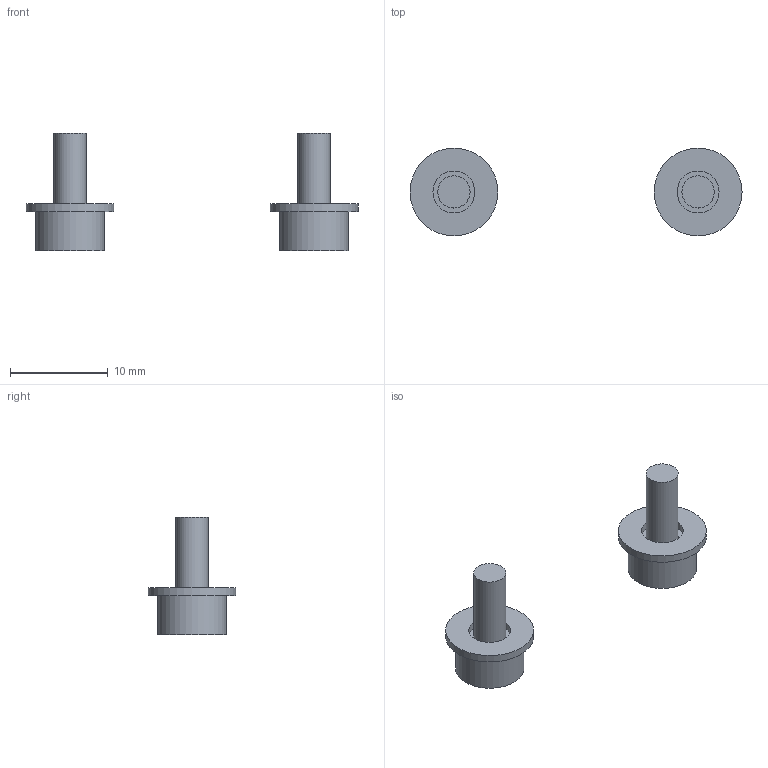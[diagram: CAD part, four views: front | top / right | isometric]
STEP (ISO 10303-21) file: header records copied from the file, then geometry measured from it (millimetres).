
FILE_DESCRIPTION(('Open CASCADE Model'),'2;1');
FILE_NAME('Open CASCADE Shape Model','2026-09-23T13:32:41',('Author'),( 'Open CASCADE'),'Open CASCADE STEP processor 7.9','Open CASCADE 7.9' ,'Unknown');
FILE_SCHEMA(('AUTOMOTIVE_DESIGN { 1 0 10303 214 1 1 1 1 }'));
Length unit declared in the file: millimetre
Products named in the file (5): Open CASCADE STEP translator 7.9 1; Open CASCADE STEP translator 7.9 1.1; Open CASCADE STEP translator 7.9 1.2; Open CASCADE STEP translator 7.9 1.3; Open CASCADE STEP translator 7.9 1.4
Assembly tree (4 placements, depth 2):
  Open CASCADE STEP translator 7.9 1
    Open CASCADE STEP translator 7.9 1.1
    Open CASCADE STEP translator 7.9 1.2
    Open CASCADE STEP translator 7.9 1.3
    Open CASCADE STEP translator 7.9 1.4
Bounding box: 34.01 x 9 x 12 mm (x, y, z)
Volume: 492.1 mm3; surface area: 800.5 mm2
Topology: 4 solids, 4 shells, 32 faces, 60 edges, 40 vertices
Faces by surface type: plane 24, cylinder 8
Full cylindrical faces by diameter (mm): 3.3 x2, 4.3 x2, 7 x2, 9 x2
Entity records: 1664 total; most frequent: DIRECTION 270, CARTESIAN_POINT 257, LINE 148, VECTOR 148, ORIENTED_EDGE 120, PCURVE 120, DEFINITIONAL_REPRESENTATION 120, EDGE_CURVE 60
